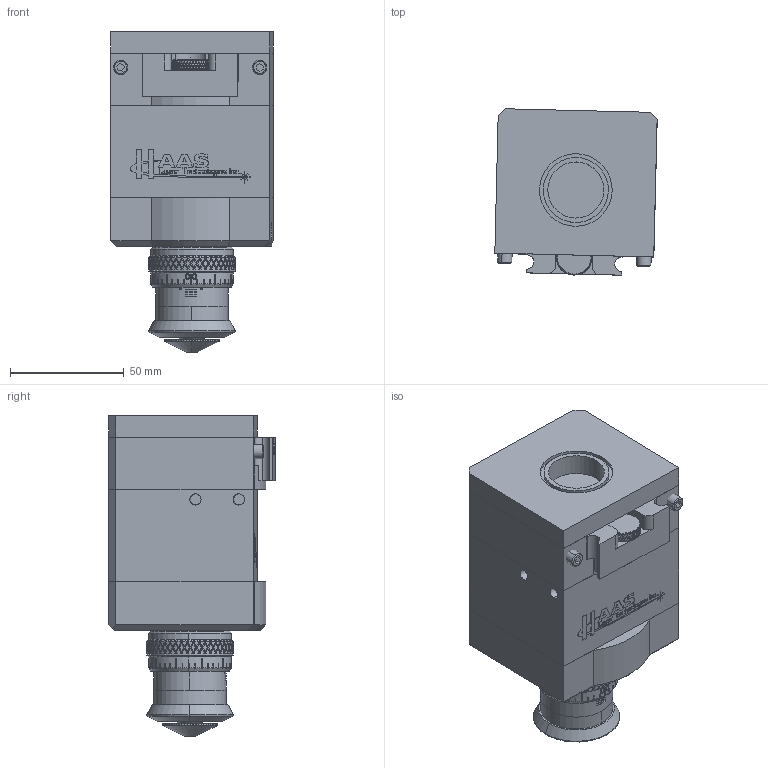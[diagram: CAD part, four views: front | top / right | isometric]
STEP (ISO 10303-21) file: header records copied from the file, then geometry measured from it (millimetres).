
FILE_DESCRIPTION (( 'STEP AP214' ), '1' );
FILE_NAME ('G6-25-28-127.STEP', '2016-11-03T14:47:23', ( '' ), ( '' ), 'SwSTEP 2.0', 'SolidWorks 2016', '' );
FILE_SCHEMA (( 'AUTOMOTIVE_DESIGN' ));
Length unit declared in the file: inch
Products named in the file (1): G6-25-28-127
Bounding box: 71.34 x 73.09 x 140.99 mm (x, y, z)
Volume: 478199.7 mm3; surface area: 98716.5 mm2
Topology: 22 solids, 22 shells, 3228 faces, 8544 edges, 5437 vertices
Faces by surface type: plane 2478, cylinder 621, cone 65, bspline 50, sphere 8, torus 6
Entity records: 102051 total; most frequent: CARTESIAN_POINT 27760, ORIENTED_EDGE 17080, DIRECTION 13301, EDGE_CURVE 8540, VERTEX_POINT 5437, LINE 5069, VECTOR 5069, AXIS2_PLACEMENT_3D 4116
